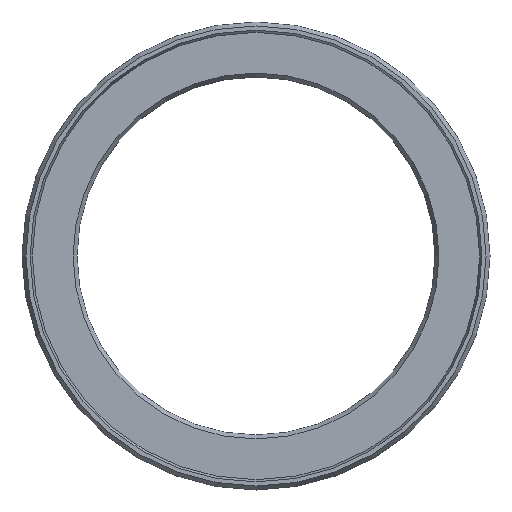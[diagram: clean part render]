
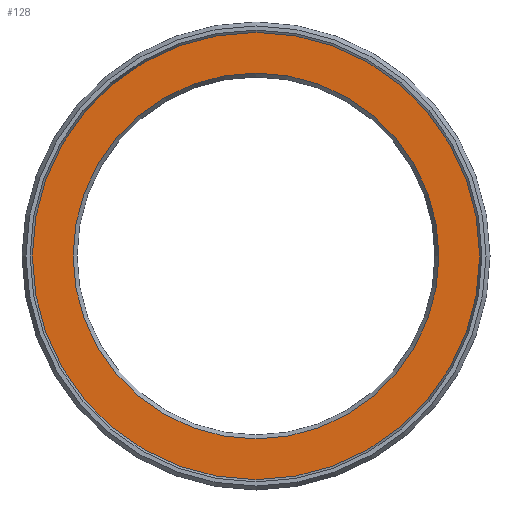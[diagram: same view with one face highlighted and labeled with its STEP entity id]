
A CAD part, left-side view. The second image highlights one B-rep face of the part: STEP entity #128.
In plain terms, the highlighted planar face has unit normal (-1, 0, 0).
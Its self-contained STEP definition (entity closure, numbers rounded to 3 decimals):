
#112=PLANE('',#329);
#128=ADVANCED_FACE('',(#163,#164),#112,.T.);
#163=FACE_BOUND('',#199,.T.);
#164=FACE_BOUND('',#200,.T.);
#199=EDGE_LOOP('',(#235));
#200=EDGE_LOOP('',(#236));
#235=ORIENTED_EDGE('',*,*,#276,.T.);
#236=ORIENTED_EDGE('',*,*,#275,.F.);
#257=VERTEX_POINT('',#454);
#258=VERTEX_POINT('',#457);
#275=EDGE_CURVE('',#257,#257,#293,.T.);
#276=EDGE_CURVE('',#258,#258,#294,.T.);
#293=CIRCLE('',#326,32.5);
#294=CIRCLE('',#328,26.577);
#326=AXIS2_PLACEMENT_3D('',#453,#394,#395);
#328=AXIS2_PLACEMENT_3D('',#456,#398,#399);
#329=AXIS2_PLACEMENT_3D('',#458,#400,#401);
#394=DIRECTION('',(1.,0.,0.));
#395=DIRECTION('',(0.,0.,-1.));
#398=DIRECTION('',(1.,0.,0.));
#399=DIRECTION('',(0.,0.,1.));
#400=DIRECTION('',(-1.,0.,0.));
#401=DIRECTION('',(0.,0.,1.));
#453=CARTESIAN_POINT('',(0.,0.,0.));
#454=CARTESIAN_POINT('',(0.,0.,-32.5));
#456=CARTESIAN_POINT('',(0.,0.,0.));
#457=CARTESIAN_POINT('',(0.,0.,26.577));
#458=CARTESIAN_POINT('',(0.,32.5,0.));
